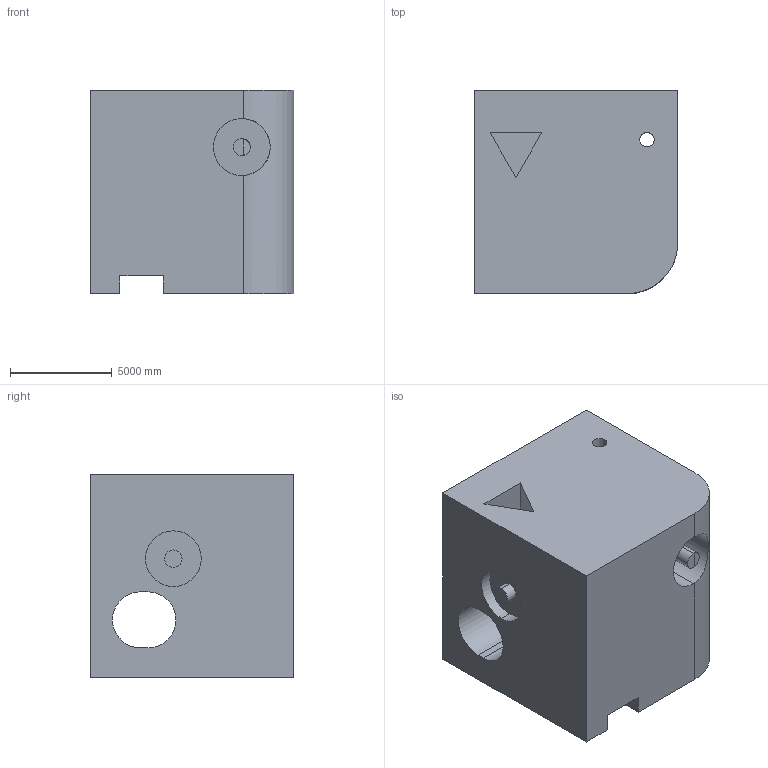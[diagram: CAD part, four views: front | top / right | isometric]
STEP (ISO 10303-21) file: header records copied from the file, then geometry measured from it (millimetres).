
FILE_DESCRIPTION (( 'STEP AP203' ), '1' );
FILE_NAME ('67.STEP', '2022-09-01T11:54:08', ( 'user' ), ( '' ), 'SwSTEP 2.0', 'SolidWorks 2021', '' );
FILE_SCHEMA (( 'CONFIG_CONTROL_DESIGN' ));
Length unit declared in the file: centimetre
Products named in the file (1): 67
Bounding box: 10000 x 10000 x 10000 mm (x, y, z)
Volume: 840158503292.6 mm3; surface area: 808487509.1 mm2
Topology: 1 solids, 1 shells, 38 faces, 102 edges, 68 vertices
Faces by surface type: plane 20, cylinder 18
Entity records: 2294 total; most frequent: CARTESIAN_POINT 1238, ORIENTED_EDGE 204, DIRECTION 198, EDGE_CURVE 102, AXIS2_PLACEMENT_3D 69, VERTEX_POINT 68, LINE 60, VECTOR 60
